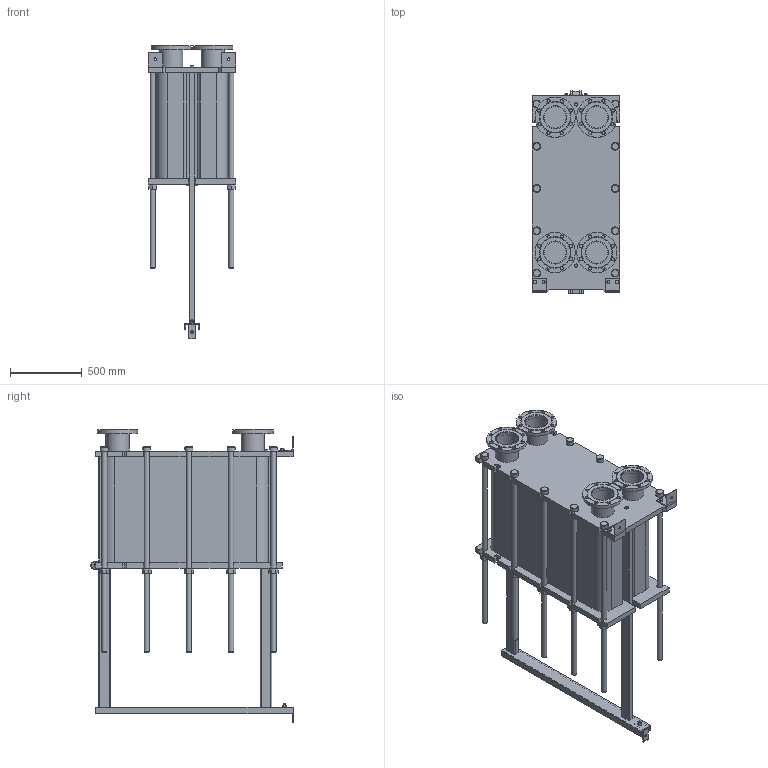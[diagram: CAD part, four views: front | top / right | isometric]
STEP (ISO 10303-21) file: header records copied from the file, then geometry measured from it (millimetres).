
FILE_DESCRIPTION(/* description */ (''),/* implementation_level */ '2;1');
FILE_NAME(/* name */ 'C:\Users\zhuro\Desktop\ENCO\TO\ЭН-041\ЭН-0,5-041-213-1.stp',/* time_stamp */ '2022-06-06T11:07:00+03:00',/* author */ ('zhuro'),/* organization */ (''),/* preprocessor_version */ 'ST-DEVELOPER v18.1',/* originating_system */ 'Autodesk Inventor 2022',/* authorisation */ '');
FILE_SCHEMA (('AUTOMOTIVE_DESIGN { 1 0 10303 214 3 1 1 }'));
Length unit declared in the file: millimetre
Products named in the file (1): ЭН-0,5-041-213-1
Bounding box: 610 x 1406.5 x 2037.5 mm (x, y, z)
Volume: 501720985.3 mm3; surface area: 11516068.5 mm2
Topology: 52 solids, 52 shells, 711 faces, 1696 edges, 1094 vertices
Faces by surface type: plane 487, cylinder 177, cone 41, torus 6
Full cylindrical faces by diameter (mm): 8 x4, 10 x2, 16 x8, 18 x3, 22 x32, 36 x24, 50 x1, 54 x10, 60 x12, 151 x4, 161 x8, 280 x4
Entity records: 22667 total; most frequent: CARTESIAN_POINT 5230, DIRECTION 3644, ORIENTED_EDGE 3392, EDGE_CURVE 1696, AXIS2_PLACEMENT_3D 1272, LINE 1100, VECTOR 1100, VERTEX_POINT 1094
